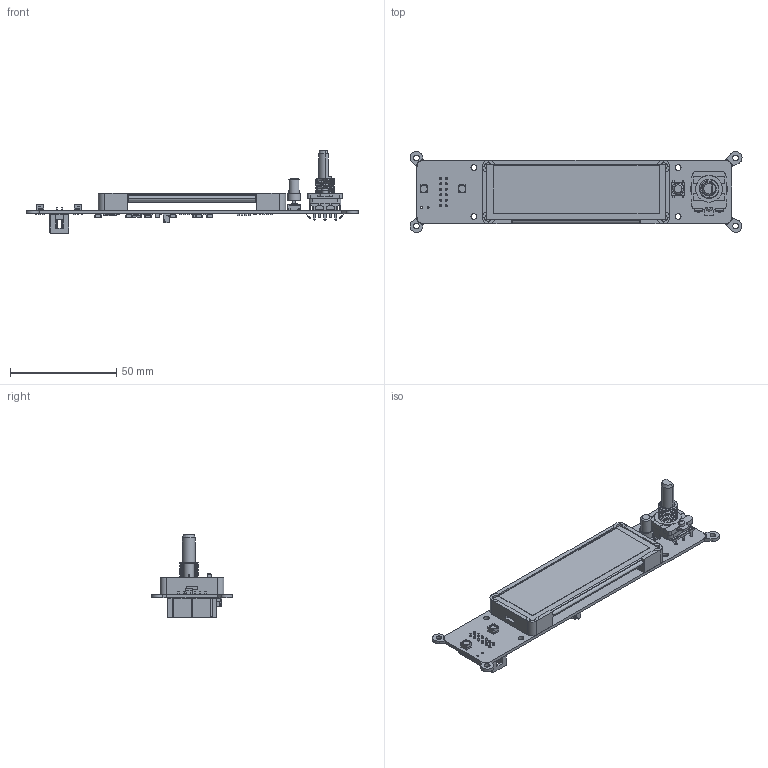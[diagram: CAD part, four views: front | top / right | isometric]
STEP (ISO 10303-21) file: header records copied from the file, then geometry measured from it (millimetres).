
FILE_DESCRIPTION(('KiCad electronic assembly'),'2;1');
FILE_NAME('ui_board_1u.step','2025-12-23T15:48:11',('Pcbnew'),('Kicad'), 'Open CASCADE STEP processor 7.8','KiCad to STEP converter','Unknown' );
FILE_SCHEMA(('AUTOMOTIVE_DESIGN { 1 0 10303 214 1 1 1 1 }'));
Length unit declared in the file: millimetre
Products named in the file (20): ui_board_1u 1; PEC16-4X20F-SXXXX; RS-3535MWAR; Group005; difference; SW_SPST_Omron_B3FS-105xP; button_cap; oled_panel_frame; oled_panel_2.8inch; R_0603_1608Metric; C_1206_3216Metric; D_SOD-123; BM07B-SRSS-TB; IDC-Header_2x06_P2.54mm_Vertical; SOT-23-5; QFN-28-1EP_6x6mm_P0.65mm_EP4.25x4.25mm; C_0603_1608Metric; D_SOD-323F; L_1008_2520Metric; ui_board_1u_PCB
Assembly tree (65 placements, depth 3):
  ui_board_1u 1
    PEC16-4X20F-SXXXX
    RS-3535MWAR  x2
      Group005
      difference
    SW_SPST_Omron_B3FS-105xP
    button_cap
    oled_panel_frame
    oled_panel_2.8inch
    R_0603_1608Metric  x29
    C_1206_3216Metric  x13
    D_SOD-123
    BM07B-SRSS-TB
    IDC-Header_2x06_P2.54mm_Vertical
    SOT-23-5  x2
    QFN-28-1EP_6x6mm_P0.65mm_EP4.25x4.25mm
    C_0603_1608Metric  x5
    D_SOD-323F
    L_1008_2520Metric
    ui_board_1u_PCB
Bounding box: 156 x 38.03 x 38.78 mm (x, y, z)
Volume: 23136.1 mm3; surface area: 29266.7 mm2
Topology: 82 solids, 86 shells, 3059 faces, 7853 edges, 5046 vertices
Faces by surface type: plane 2135, cylinder 808, bspline 107, cone 8, torus 1
Full cylindrical faces by diameter (mm): 0.38 x24, 0.5 x1, 0.76 x6, 0.9 x2, 1 x18, 1.2 x5, 1.4 x1, 2.7 x8, 3 x3, 3.2 x1, 5 x1
Entity records: 62703 total; most frequent: CARTESIAN_POINT 12446, ORIENTED_EDGE 8824, DIRECTION 8398, EDGE_CURVE 4402, LINE 3364, VECTOR 3364, VERTEX_POINT 2800, AXIS2_PLACEMENT_3D 2517
